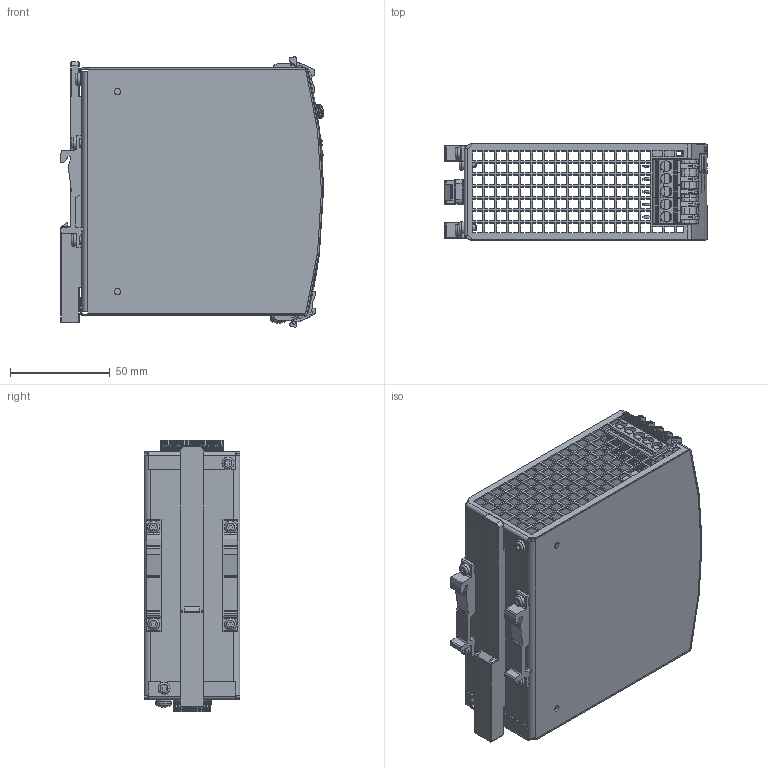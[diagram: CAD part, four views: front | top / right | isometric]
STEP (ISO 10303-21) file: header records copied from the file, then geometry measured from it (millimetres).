
FILE_DESCRIPTION(/* description */ ('HOUSING BODY','CAx-IF Rec.Pracs.---Representation and Presentation of Product Manufacturing Information (PMI)---3.8---2014-02-18'),/* implementation_level */ '2;1');
FILE_NAME(/* name */ 'L:\MKT-GER\Neue Webdokumente\Daten von KO\CP20.241-R1 (AN-426.11)\md3_cp20_241-r1.stp',/* time_stamp */ '2017-08-17T13:22:42+02:00',/* author */ ('rahns'),/* organization */ (''),/* preprocessor_version */ 'ST-DEVELOPER v16.1',/* originating_system */ 'Autodesk Inventor 2016',/* authorisation */ '');
FILE_SCHEMA (('AP242_MANAGED_MODEL_BASED_3D_ENGINEERING_MIM_LF { 1 0 10303 442 1 1 4 }'));
Products named in the file (14): HOUSING BODY 426.90; MKT_SLIDER; MKT_T HOLDER; MKT_SCREW 3x6; HOUSING COVER 426.11; MKT_LP3BK-DC; MKT_LP2BK-DC; FRONTFOIL 426.11; MKT_LP2SW-R6; MKT_LED GN; MKT_POTI COVER; MKT_SCREW 4x8; MKT_SPRING WASHER A4; 426.11
Assembly tree (20 placements, depth 2):
  426.11
    HOUSING BODY 426.90
    MKT_SLIDER
    MKT_T HOLDER  x2
    MKT_SCREW 3x6  x6
    HOUSING COVER 426.11
    MKT_LP3BK-DC  x2
    MKT_LP2BK-DC
    FRONTFOIL 426.11
    MKT_LP2SW-R6
    MKT_LED GN
    MKT_POTI COVER
    MKT_SCREW 4x8
    MKT_SPRING WASHER A4
Bounding box: 131.53 x 48 x 135.58 mm (x, y, z)
Volume: 91256.7 mm3; surface area: 125619.7 mm2
Topology: 21 solids, 127 shells, 5165 faces, 14294 edges, 9489 vertices
Faces by surface type: plane 3432, cylinder 1119, bspline 293, torus 169, cone 97, sphere 55
Full cylindrical faces by diameter (mm): 0.3 x7, 1.5 x8, 2.2 x8, 2.45 x2, 2.7 x1, 3 x6, 3.1 x4, 3.2 x3, 3.621 x1, 4 x1, 4.355 x1, 4.5 x1, 4.6 x1, 6 x6
Entity records: 131731 total; most frequent: CARTESIAN_POINT 31024, ORIENTED_EDGE 21312, DIRECTION 19270, EDGE_CURVE 10656, LINE 7724, VECTOR 7724, VERTEX_POINT 7097, AXIS2_PLACEMENT_3D 5773
